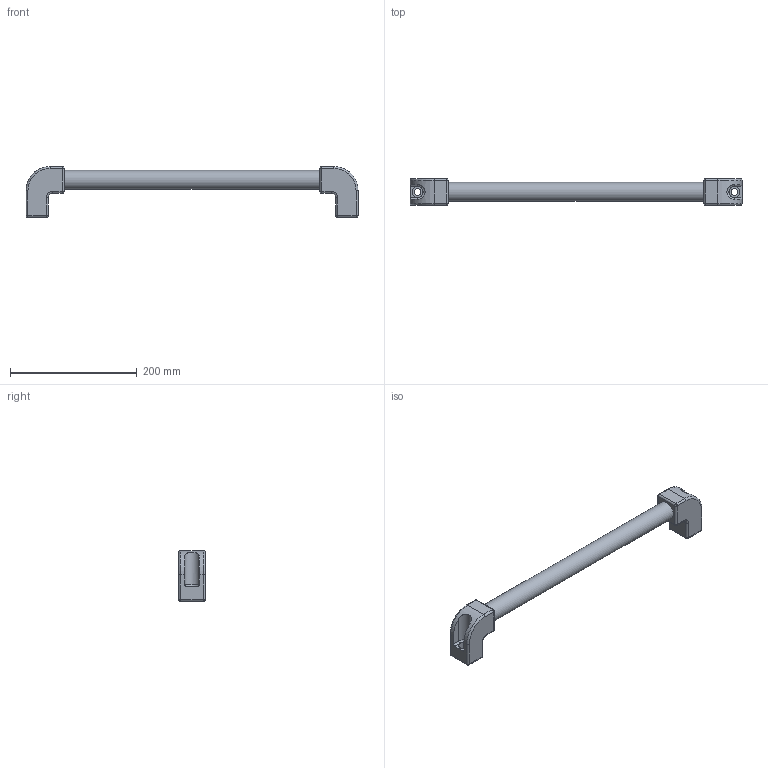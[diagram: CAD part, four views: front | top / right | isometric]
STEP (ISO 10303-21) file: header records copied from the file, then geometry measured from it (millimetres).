
FILE_DESCRIPTION( ('This file contains a STEP AP42 implementation' ,'as created by ZW3D STEP Interface translator.') ,'2;1' );
FILE_NAME( 'R30-500.stp' ,'26 817.123253', (''), ('ZWCAD Software Co.'), 'Version 1.0', 'ZW3D to STEP translator', '' );
FILE_SCHEMA(('AP242_MANAGED_MODEL_BASED_3D_ENGINEERING_MIM_LF { 1 0 10303 442 1 1 4 }'));
Length unit declared in the file: millimetre
Products named in the file (1): 0
Bounding box: 524 x 42 x 80 mm (x, y, z)
Volume: 295023.3 mm3; surface area: 122319.7 mm2
Topology: 3 solids, 3 shells, 104 faces, 216 edges, 122 vertices
Faces by surface type: cylinder 50, plane 28, sphere 16, torus 10
Full cylindrical faces by diameter (mm): 10.5 x2, 17 x2, 26 x1, 30 x3
Entity records: 2885 total; most frequent: DIRECTION 538, CARTESIAN_POINT 467, ORIENTED_EDGE 428, AXIS2_PLACEMENT_3D 219, EDGE_CURVE 214, VERTEX_POINT 120, CIRCLE 114, EDGE_LOOP 114
